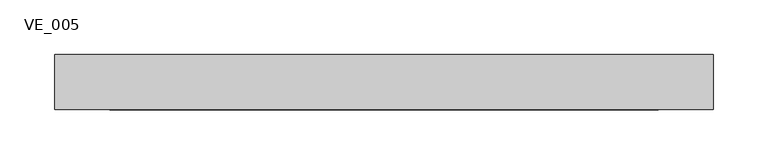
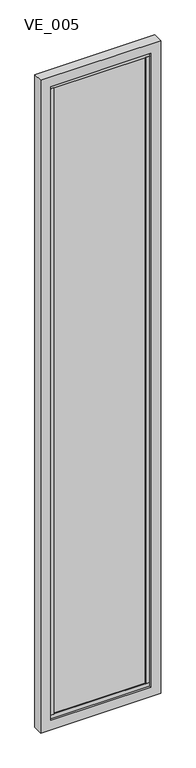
"""IFC4 building model written with IfcOpenShell, lengths in millimetres: plate geometry, TRP_CP_ARC_PF_RE : VE_005."""

from ifc_helpers import new_model, si_unit, frame, origin, place, context, project, spatial, polyline, outline, extrude, source, transform, mapped, element, save


def ve_005_b225966d(model_context):
    return source(origin(), model_context, "Body", "SweptSolid", [
        extrude(outline(polyline([(230.0, -10.0), (-230.0, -10.0), (-230.0, 10.0), (230.0, 10.0), (230.0, -10.0)])), frame((0.0, 0.0, 70.0), z_axis=(0.0, 0.0, 1.0), x_axis=(1.0, 0.0, 0.0)), (0.0, 0.0, 1.0), 3310.0),
        extrude(outline(polyline([(250.0, -15.0), (230.0, -15.0), (230.0, 15.0), (250.0, 15.0), (250.0, -15.0)])), frame((0.0, 0.0, 70.0), z_axis=(0.0, 0.0, 1.0), x_axis=(1.0, 0.0, 0.0)), (0.0, 0.0, 1.0), 3310.0),
        extrude(outline(polyline([(-230.0, -15.0), (-250.0, -15.0), (-250.0, 15.0), (-230.0, 15.0), (-230.0, -15.0)])), frame((0.0, 0.0, 70.0), z_axis=(0.0, 0.0, 1.0), x_axis=(1.0, 0.0, 0.0)), (0.0, 0.0, 1.0), 3310.0),
        extrude(outline(polyline([(250.0, -15.0), (-250.0, -15.0), (-250.0, 15.0), (250.0, 15.0), (250.0, -15.0)])), frame((0.0, 0.0, 50.0), z_axis=(0.0, 0.0, 1.0), x_axis=(1.0, 0.0, 0.0)), (0.0, 0.0, 1.0), 20.0),
        extrude(outline(polyline([(250.0, -15.0), (-250.0, -15.0), (-250.0, 15.0), (250.0, 15.0), (250.0, -15.0)])), frame((0.0, 0.0, 3380.0), z_axis=(0.0, 0.0, 1.0), x_axis=(1.0, 0.0, 0.0)), (0.0, 0.0, 1.0), 20.0),
        extrude(outline(polyline([(3450.0, 300.0), (3450.0, -300.0), (0.0, -300.0), (0.0, 300.0), (3450.0, 300.0)]), holes=[polyline([(50.0, 250.0), (50.0, -250.0), (3400.0, -250.0), (3400.0, 250.0), (50.0, 250.0)])]), frame((0.0, -25.0, 0.0), z_axis=(0.0, 1.0, 0.0), x_axis=(0.0, 0.0, 1.0)), (0.0, 0.0, 1.0), 50.0),
    ])


if __name__ == "__main__":
    model = new_model("IFC4")
    model_context = context("Model", 3, world=origin())
    ifc_project = project(units=[si_unit("LENGTHUNIT", "METRE", prefix="MILLI")], contexts=[model_context])
    site = spatial("IfcSite", under=ifc_project)
    building = spatial("IfcBuilding", under=site)
    placement = place(None, origin())
    ve_005_shape = ve_005_b225966d(model_context)
    element("IfcPlate", 1, ObjectType="TRP_CP_ARC_PF_RE : VE_005", at=placement, inside=building, context=model_context, shape_type="MappedRepresentation", body=[
        mapped(ve_005_shape, transform((0.0, 0.0, 0.0), x_axis=(1.0, 0.0, 0.0), y_axis=(0.0, 1.0, 0.0), z_axis=(0.0, 0.0, 1.0))),
    ])
    save(model, "model.ifc")
